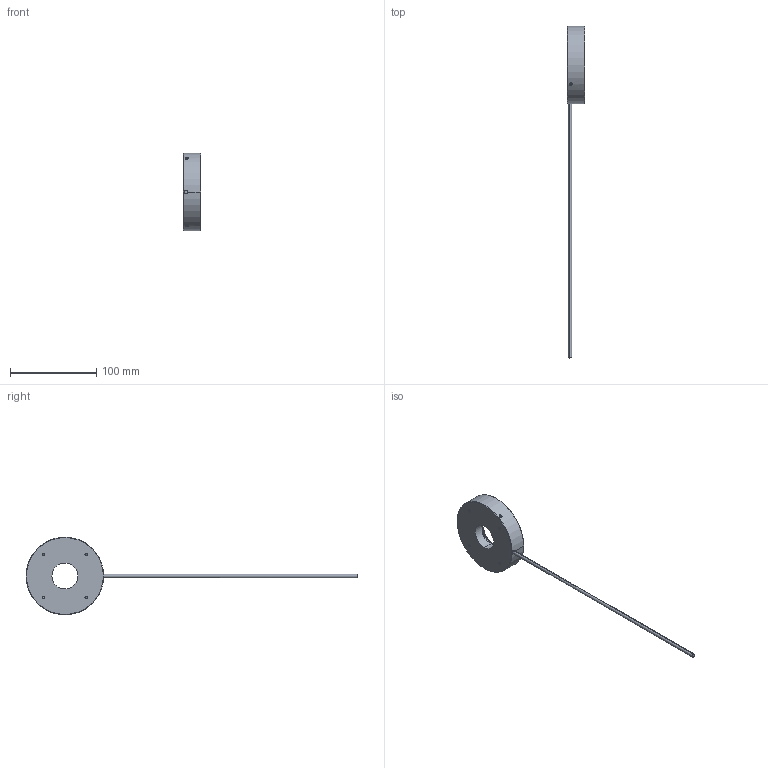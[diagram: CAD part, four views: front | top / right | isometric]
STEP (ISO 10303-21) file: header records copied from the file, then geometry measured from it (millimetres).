
FILE_DESCRIPTION (( 'STEP AP214' ), '1' );
FILE_NAME ('CV-R-90X30-80#20140616.STEP', '2014-06-16T03:56:11', ( '' ), ( '' ), 'SwSTEP 2.0', 'SolidWorks 2011', '' );
FILE_SCHEMA (( 'AUTOMOTIVE_DESIGN' ));
Length unit declared in the file: millimetre
Products named in the file (1): CV-R-90X30-80#20140616
Bounding box: 20 x 384.41 x 90 mm (x, y, z)
Volume: 93606.2 mm3; surface area: 38040.6 mm2
Topology: 1 solids, 1 shells, 4268 faces, 10734 edges, 6459 vertices
Faces by surface type: plane 2216, cylinder 1482, bspline 540, cone 30
Entity records: 136353 total; most frequent: CARTESIAN_POINT 36408, DIRECTION 21768, ORIENTED_EDGE 20372, EDGE_CURVE 10186, AXIS2_PLACEMENT_3D 8897, VERTEX_POINT 6459, CIRCLE 5168, EDGE_LOOP 4809
